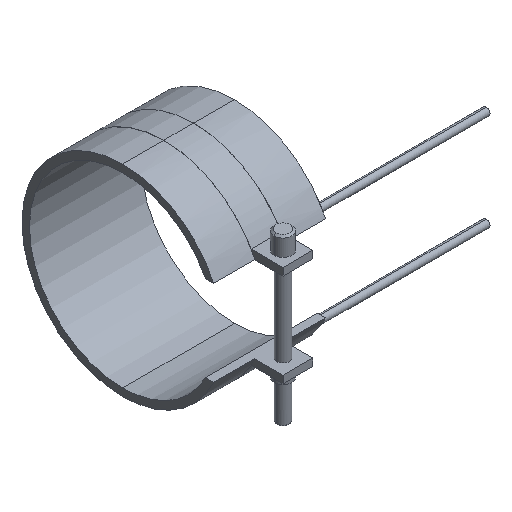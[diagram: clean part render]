
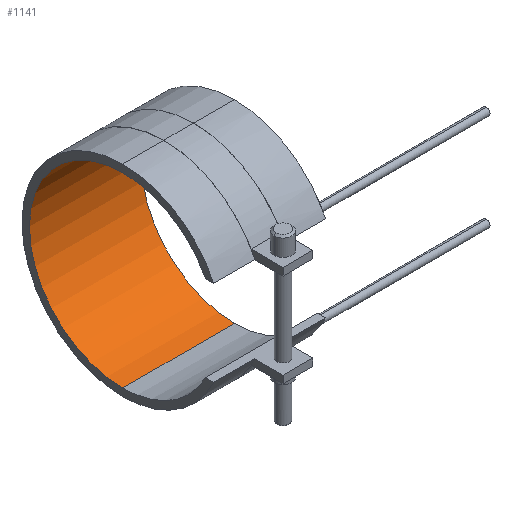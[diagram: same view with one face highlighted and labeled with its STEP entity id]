
A CAD part, isometric view. The second image highlights one B-rep face of the part: STEP entity #1141.
In plain terms, the highlighted cylindrical face has radius 50 mm (diameter 100 mm), a partial arc.
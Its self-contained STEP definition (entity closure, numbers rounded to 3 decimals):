
#822=CARTESIAN_POINT('Vertex',(-30.,0.,-50.)) ;
#829=CARTESIAN_POINT('Vertex',(30.,0.,-50.)) ;
#832=CARTESIAN_POINT('Line Origine',(30.,0.,-50.)) ;
#850=CARTESIAN_POINT('Axis2P3D Location',(-30.,0.,0.)) ;
#854=CARTESIAN_POINT('Vertex',(-30.,0.,50.)) ;
#911=CARTESIAN_POINT('Vertex',(30.,0.,50.)) ;
#921=CARTESIAN_POINT('Line Origine',(30.,0.,50.)) ;
#1012=CARTESIAN_POINT('Axis2P3D Location',(30.,0.,0.)) ;
#1130=CARTESIAN_POINT('Axis2P3D Location',(30.,0.,0.)) ;
#833=DIRECTION('Vector Direction',(1.,0.,0.)) ;
#851=DIRECTION('Axis2P3D Direction',(1.,0.,0.)) ;
#922=DIRECTION('Vector Direction',(1.,0.,0.)) ;
#1013=DIRECTION('Axis2P3D Direction',(1.,0.,0.)) ;
#1131=DIRECTION('Axis2P3D Direction',(1.,0.,-0.)) ;
#1132=DIRECTION('Axis2P3D XDirection',(0.,0.,-1.)) ;
#852=AXIS2_PLACEMENT_3D('Circle Axis2P3D',#850,#851,$) ;
#1014=AXIS2_PLACEMENT_3D('Circle Axis2P3D',#1012,#1013,$) ;
#1133=AXIS2_PLACEMENT_3D('Cylinder Axis2P3D',#1130,#1131,#1132) ;
#1136=ORIENTED_EDGE('',*,*,#1016,.T.) ;
#1137=ORIENTED_EDGE('',*,*,#925,.T.) ;
#1138=ORIENTED_EDGE('',*,*,#856,.F.) ;
#1139=ORIENTED_EDGE('',*,*,#836,.T.) ;
#834=VECTOR('Line Direction',#833,1.) ;
#923=VECTOR('Line Direction',#922,1.) ;
#1141=ADVANCED_FACE('14100060',(#1140),#1134,.F.) ;
#853=CIRCLE('generated circle',#852,50.) ;
#1015=CIRCLE('generated circle',#1014,50.) ;
#1134=CYLINDRICAL_SURFACE('generated cylinder',#1133,50.) ;
#836=EDGE_CURVE('',#823,#830,#835,.T.) ;
#856=EDGE_CURVE('',#823,#855,#853,.T.) ;
#925=EDGE_CURVE('',#912,#855,#924,.F.) ;
#1016=EDGE_CURVE('',#830,#912,#1015,.T.) ;
#1135=EDGE_LOOP('',(#1136,#1137,#1138,#1139)) ;
#1140=FACE_OUTER_BOUND('',#1135,.T.) ;
#835=LINE('Line',#832,#834) ;
#924=LINE('Line',#921,#923) ;
#823=VERTEX_POINT('',#822) ;
#830=VERTEX_POINT('',#829) ;
#855=VERTEX_POINT('',#854) ;
#912=VERTEX_POINT('',#911) ;
